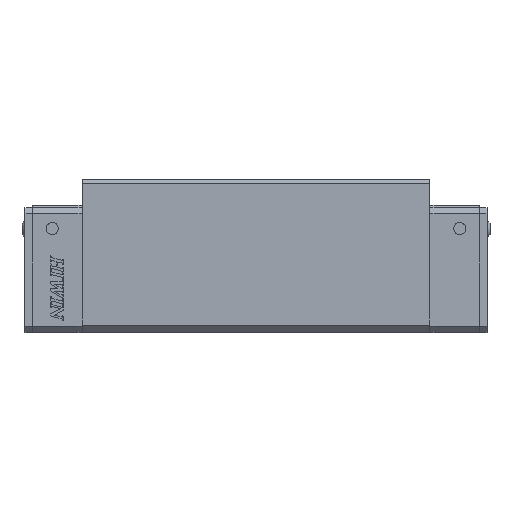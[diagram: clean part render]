
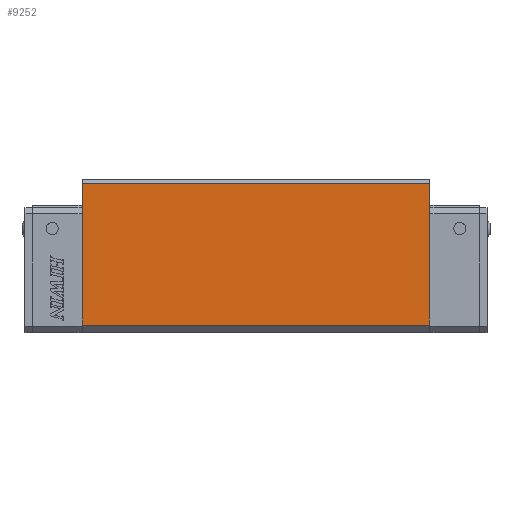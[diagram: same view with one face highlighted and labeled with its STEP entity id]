
A CAD part, top view. The second image highlights one B-rep face of the part: STEP entity #9252.
In plain terms, the highlighted planar face has unit normal (0, 0, 1) as drawn and (-1, 0, 0) by its records, which use the part's own axes.
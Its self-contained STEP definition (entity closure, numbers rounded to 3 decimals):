
#95=PLANE('',#9873);
#611=FACE_OUTER_BOUND('',#1114,.T.);
#1114=EDGE_LOOP('',(#6677,#6678,#6679,#6680));
#1910=LINE('',#13375,#3032);
#1922=LINE('',#13405,#3044);
#1968=LINE('',#13510,#3090);
#1974=LINE('',#13521,#3096);
#3032=VECTOR('',#10688,57.1);
#3044=VECTOR('',#10714,57.1);
#3090=VECTOR('',#10816,140.8);
#3096=VECTOR('',#10832,140.8);
#4168=VERTEX_POINT('',#13372);
#4169=VERTEX_POINT('',#13374);
#4179=VERTEX_POINT('',#13402);
#4180=VERTEX_POINT('',#13404);
#5103=EDGE_CURVE('',#4168,#4169,#1910,.T.);
#5118=EDGE_CURVE('',#4179,#4180,#1922,.T.);
#5171=EDGE_CURVE('',#4169,#4179,#1968,.T.);
#5177=EDGE_CURVE('',#4180,#4168,#1974,.T.);
#6677=ORIENTED_EDGE('',*,*,#5103,.F.);
#6678=ORIENTED_EDGE('',*,*,#5177,.F.);
#6679=ORIENTED_EDGE('',*,*,#5118,.F.);
#6680=ORIENTED_EDGE('',*,*,#5171,.F.);
#9252=ADVANCED_FACE('',(#611),#95,.F.);
#9873=AXIS2_PLACEMENT_3D('',#13522,#10833,#10834);
#10688=DIRECTION('',(0.,-1.,0.));
#10714=DIRECTION('',(0.,1.,0.));
#10816=DIRECTION('',(0.,0.,-1.));
#10832=DIRECTION('',(0.,0.,1.));
#10833=DIRECTION('center_axis',(1.,0.,0.));
#10834=DIRECTION('ref_axis',(0.,0.,-1.));
#13372=CARTESIAN_POINT('',(-43.,-1.9,70.4));
#13374=CARTESIAN_POINT('',(-43.,-59.,70.4));
#13375=CARTESIAN_POINT('',(-43.,-1.9,70.4));
#13402=CARTESIAN_POINT('',(-43.,-59.,-70.4));
#13404=CARTESIAN_POINT('',(-43.,-1.9,-70.4));
#13405=CARTESIAN_POINT('',(-43.,-59.,-70.4));
#13510=CARTESIAN_POINT('',(-43.,-59.,70.4));
#13521=CARTESIAN_POINT('',(-43.,-1.9,-70.4));
#13522=CARTESIAN_POINT('Origin',(-43.,-1.9,0.));
